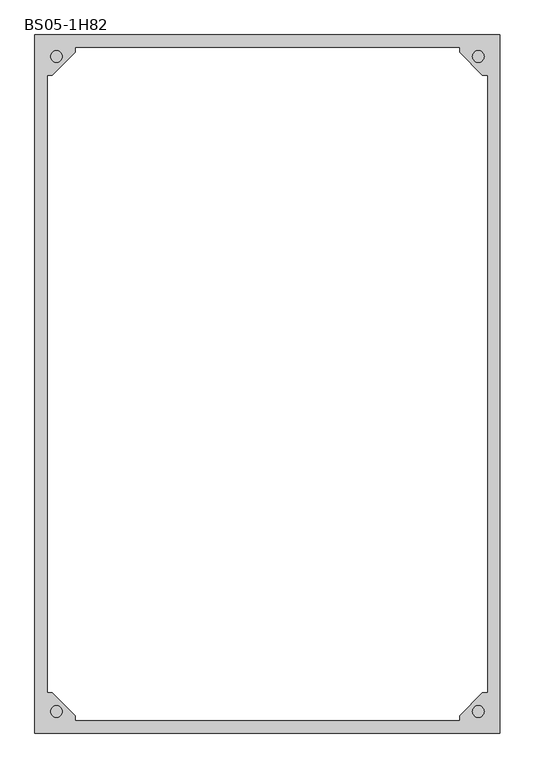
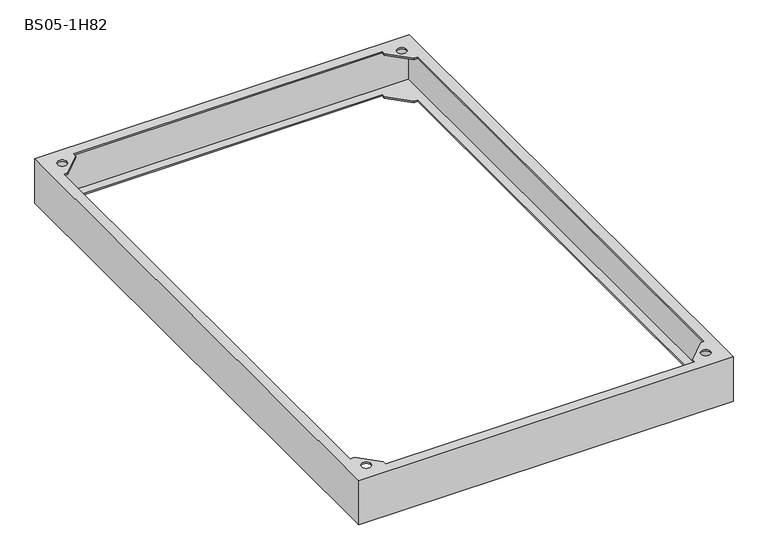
"""IFC4 building model written with IfcOpenShell, lengths in millimetres: proxy geometry, Цоколь для напольных шкафов : BS05-1H82."""

from ifc_helpers import new_model, si_unit, frame, origin, place, context, project, spatial, polyline, circle_curve, source, transform, mapped, element, save
from ifc_brep_helpers import plane_surface, revolved_surface, advanced_brep


def bs05_1h82_7e8a83d8(model_context):
    return source(origin(), model_context, "Body", "AdvancedBrep", [
        advanced_brep(
        [(400.0, -600.0, 100.0), (400.0, -600.0, 97.0), (400.0, -600.0, 3.0), (400.0, -600.0, 0.0), (400.0, 600.0, 0.0), (400.0, 600.0, 3.0), (400.0, 600.0, 97.0), (400.0, 600.0, 100.0), (378.0, 530.0, 0.0), (378.0, -530.0, 0.0), (378.0, -530.0, 3.0), (378.0, 530.0, 3.0), (397.0, 597.0, 97.0), (397.0, 597.0, 3.0), (397.0, -597.0, 3.0), (397.0, -597.0, 97.0), (378.0, 530.0, 97.0), (378.0, -530.0, 97.0), (378.0, -530.0, 100.0), (378.0, 530.0, 100.0), (-400.0, -600.0, 100.0), (-400.0, -600.0, 97.0), (-400.0, -600.0, 3.0), (-400.0, -600.0, 0.0), (330.0, -578.0, 0.0), (-330.0, -578.0, 0.0), (-330.0, -578.0, 3.0), (330.0, -578.0, 3.0), (-397.0, -597.0, 3.0), (-397.0, -597.0, 97.0), (330.0, -578.0, 97.0), (-330.0, -578.0, 97.0), (-330.0, -578.0, 100.0), (330.0, -578.0, 100.0), (-400.0, 600.0, 100.0), (-400.0, 600.0, 97.0), (-400.0, 600.0, 3.0), (-400.0, 600.0, 0.0), (-378.0, -530.0, 0.0), (-378.0, 530.0, 0.0), (-378.0, 530.0, 3.0), (-378.0, -530.0, 3.0), (-397.0, 597.0, 3.0), (-397.0, 597.0, 97.0), (-378.0, -530.0, 97.0), (-378.0, 530.0, 97.0), (-378.0, 530.0, 100.0), (-378.0, -530.0, 100.0), (-330.0, -570.0, 100.0), (-370.0, -530.0, 100.0), (-370.0, 530.0, 100.0), (-330.0, 570.0, 100.0), (-330.0, 578.0, 100.0), (330.0, 578.0, 100.0), (330.0, 570.0, 100.0), (370.0, 530.0, 100.0), (370.0, -530.0, 100.0), (330.0, -570.0, 100.0), (-352.9289322, -562.9289322, 100.0), (-372.9289322, -562.9289322, 100.0), (372.9289322, -562.9289322, 100.0), (352.9289322, -562.9289322, 100.0), (-352.9289322, 562.9289322, 100.0), (-372.9289322, 562.9289322, 100.0), (372.9289322, 562.9289322, 100.0), (352.9289322, 562.9289322, 100.0), (370.0, 530.0, 0.0), (330.0, 570.0, 0.0), (330.0, 578.0, 0.0), (-330.0, 578.0, 0.0), (-330.0, 570.0, 0.0), (-370.0, 530.0, 0.0), (-370.0, -530.0, 0.0), (-330.0, -570.0, 0.0), (330.0, -570.0, 0.0), (370.0, -530.0, 0.0), (330.0, 578.0, 3.0), (-330.0, 578.0, 3.0), (370.0, -530.0, 3.0), (330.0, -570.0, 3.0), (-330.0, -570.0, 3.0), (-370.0, -530.0, 3.0), (-370.0, 530.0, 3.0), (-330.0, 570.0, 3.0), (330.0, 570.0, 3.0), (370.0, 530.0, 3.0), (-370.0, -530.0, 97.0), (-330.0, -570.0, 97.0), (330.0, -570.0, 97.0), (370.0, -530.0, 97.0), (370.0, 530.0, 97.0), (330.0, 570.0, 97.0), (330.0, 578.0, 97.0), (-330.0, 578.0, 97.0), (-330.0, 570.0, 97.0), (-370.0, 530.0, 97.0), (-352.9289322, -562.9289322, 97.0), (-372.9289322, -562.9289322, 97.0), (372.9289322, -562.9289322, 97.0), (352.9289322, -562.9289322, 97.0), (-352.9289322, 562.9289322, 97.0), (-372.9289322, 562.9289322, 97.0), (372.9289322, 562.9289322, 97.0), (352.9289322, 562.9289322, 97.0)],
        [
            (0, 1),
            (1, 2),
            (2, 3),
            (3, 4),
            (4, 5),
            (5, 6),
            (6, 7),
            (7, 0),
            (8, 9),
            (9, 10),
            (10, 11),
            (11, 8),
            (12, 13),
            (13, 14),
            (14, 15),
            (15, 12),
            (16, 17),
            (17, 18),
            (18, 19),
            (19, 16),
            (0, 20),
            (20, 21),
            (21, 22),
            (22, 23),
            (23, 3),
            (24, 25),
            (25, 26),
            (26, 27),
            (27, 24),
            (14, 28),
            (28, 29),
            (29, 15),
            (30, 31),
            (31, 32),
            (32, 33),
            (33, 30),
            (20, 34),
            (34, 35),
            (35, 36),
            (36, 37),
            (37, 23),
            (38, 39),
            (39, 40),
            (40, 41),
            (41, 38),
            (28, 42),
            (42, 43),
            (43, 29),
            (44, 45),
            (45, 46),
            (46, 47),
            (47, 44),
            (7, 34),
            (48, 49),
            (49, 47),
            (46, 50),
            (50, 51),
            (51, 52),
            (52, 53),
            (53, 54),
            (54, 55),
            (55, 19),
            (18, 56),
            (56, 57),
            (57, 33),
            (32, 48),
            (58, 59, circle_curve(frame((-362.9289322, -562.9289322, 100.0), z_axis=(0.0, 0.0, -1.0), x_axis=(-1.0, 0.0, 0.0)), 10.0)),
            (59, 58, circle_curve(frame((-362.9289322, -562.9289322, 100.0), z_axis=(0.0, 0.0, -1.0), x_axis=(-1.0, 0.0, 0.0)), 10.0)),
            (60, 61, circle_curve(frame((362.9289322, -562.9289322, 100.0), z_axis=(0.0, 0.0, -1.0), x_axis=(-1.0, 0.0, 0.0)), 10.0)),
            (61, 60, circle_curve(frame((362.9289322, -562.9289322, 100.0), z_axis=(0.0, 0.0, -1.0), x_axis=(-1.0, 0.0, 0.0)), 10.0)),
            (62, 63, circle_curve(frame((-362.9289322, 562.9289322, 100.0), z_axis=(0.0, 0.0, -1.0), x_axis=(-1.0, 0.0, 0.0)), 10.0)),
            (63, 62, circle_curve(frame((-362.9289322, 562.9289322, 100.0), z_axis=(0.0, 0.0, -1.0), x_axis=(-1.0, 0.0, 0.0)), 10.0)),
            (64, 65, circle_curve(frame((362.9289322, 562.9289322, 100.0), z_axis=(0.0, 0.0, -1.0), x_axis=(-1.0, 0.0, 0.0)), 10.0)),
            (65, 64, circle_curve(frame((362.9289322, 562.9289322, 100.0), z_axis=(0.0, 0.0, -1.0), x_axis=(-1.0, 0.0, 0.0)), 10.0)),
            (4, 37),
            (8, 66),
            (66, 67),
            (67, 68),
            (68, 69),
            (69, 70),
            (70, 71),
            (71, 39),
            (38, 72),
            (72, 73),
            (73, 25),
            (24, 74),
            (74, 75),
            (75, 9),
            (68, 76),
            (76, 77),
            (77, 69),
            (13, 42),
            (10, 78),
            (78, 79),
            (79, 27),
            (26, 80),
            (80, 81),
            (81, 41),
            (40, 82),
            (82, 83),
            (83, 77),
            (76, 84),
            (84, 85),
            (85, 11),
            (12, 43),
            (86, 87),
            (87, 31),
            (30, 88),
            (88, 89),
            (89, 17),
            (16, 90),
            (90, 91),
            (91, 92),
            (92, 93),
            (93, 94),
            (94, 95),
            (95, 45),
            (44, 86),
            (96, 97, circle_curve(frame((-362.9289322, -562.9289322, 97.0), z_axis=(0.0, 0.0, 1.0), x_axis=(-1.0, 0.0, 0.0)), 10.0)),
            (97, 96, circle_curve(frame((-362.9289322, -562.9289322, 97.0), z_axis=(0.0, 0.0, 1.0), x_axis=(-1.0, 0.0, 0.0)), 10.0)),
            (98, 99, circle_curve(frame((362.9289322, -562.9289322, 97.0), z_axis=(0.0, 0.0, 1.0), x_axis=(-1.0, 0.0, 0.0)), 10.0)),
            (99, 98, circle_curve(frame((362.9289322, -562.9289322, 97.0), z_axis=(0.0, 0.0, 1.0), x_axis=(-1.0, 0.0, 0.0)), 10.0)),
            (100, 101, circle_curve(frame((-362.9289322, 562.9289322, 97.0), z_axis=(0.0, 0.0, 1.0), x_axis=(-1.0, 0.0, 0.0)), 10.0)),
            (101, 100, circle_curve(frame((-362.9289322, 562.9289322, 97.0), z_axis=(0.0, 0.0, 1.0), x_axis=(-1.0, 0.0, 0.0)), 10.0)),
            (102, 103, circle_curve(frame((362.9289322, 562.9289322, 97.0), z_axis=(0.0, 0.0, 1.0), x_axis=(-1.0, 0.0, 0.0)), 10.0)),
            (103, 102, circle_curve(frame((362.9289322, 562.9289322, 97.0), z_axis=(0.0, 0.0, 1.0), x_axis=(-1.0, 0.0, 0.0)), 10.0)),
            (52, 93),
            (92, 53),
            (87, 48),
            (86, 49),
            (89, 56),
            (88, 57),
            (95, 50),
            (94, 51),
            (91, 54),
            (90, 55),
            (58, 96),
            (97, 59),
            (60, 98),
            (99, 61),
            (62, 100),
            (101, 63),
            (64, 102),
            (103, 65),
            (73, 80),
            (72, 81),
            (75, 78),
            (74, 79),
            (71, 82),
            (70, 83),
            (67, 84),
            (66, 85),
        ],
        [
            plane_surface(frame((400.0, 600.0, 100.0), z_axis=(1.0, 0.0, 0.0), x_axis=(0.0, -1.0, 0.0))),
            plane_surface(frame((378.0, 578.0, 0.0), z_axis=(-1.0, 0.0, 0.0), x_axis=(0.0, -1.0, 0.0))),
            plane_surface(frame((397.0, 597.0, 3.0), z_axis=(-1.0, 0.0, 0.0), x_axis=(0.0, -1.0, 0.0))),
            plane_surface(frame((378.0, 578.0, 97.0), z_axis=(-1.0, 0.0, 0.0), x_axis=(0.0, -1.0, 0.0))),
            plane_surface(frame((400.0, -600.0, 100.0), z_axis=(0.0, -1.0, 0.0), x_axis=(-1.0, 0.0, 0.0))),
            plane_surface(frame((378.0, -578.0, 0.0), z_axis=(0.0, 1.0, 0.0), x_axis=(-1.0, 0.0, 0.0))),
            plane_surface(frame((397.0, -597.0, 3.0), z_axis=(0.0, 1.0, 0.0), x_axis=(-1.0, 0.0, 0.0))),
            plane_surface(frame((378.0, -578.0, 97.0), z_axis=(0.0, 1.0, 0.0), x_axis=(-1.0, 0.0, 0.0))),
            plane_surface(frame((-400.0, -600.0, 100.0), z_axis=(-1.0, 0.0, 0.0), x_axis=(0.0, 1.0, 0.0))),
            plane_surface(frame((-378.0, -578.0, 0.0), z_axis=(1.0, 0.0, 0.0), x_axis=(0.0, 1.0, 0.0))),
            plane_surface(frame((-397.0, -597.0, 3.0), z_axis=(1.0, 0.0, 0.0), x_axis=(0.0, 1.0, 0.0))),
            plane_surface(frame((-378.0, -578.0, 97.0), z_axis=(1.0, 0.0, 0.0), x_axis=(0.0, 1.0, 0.0))),
            plane_surface(frame((-378.0, 578.0, 100.0), z_axis=(0.0, 0.0, 1.0), x_axis=(1.0, 0.0, 0.0))),
            plane_surface(frame((-400.0, 600.0, 100.0), z_axis=(0.0, 1.0, 0.0), x_axis=(1.0, 0.0, 0.0))),
            plane_surface(frame((-400.0, 600.0, 0.0), z_axis=(0.0, 0.0, -1.0), x_axis=(1.0, 0.0, 0.0))),
            plane_surface(frame((-378.0, 578.0, 0.0), z_axis=(0.0, -1.0, 0.0), x_axis=(1.0, 0.0, 0.0))),
            plane_surface(frame((-378.0, 578.0, 3.0), z_axis=(0.0, 0.0, 1.0), x_axis=(1.0, 0.0, 0.0))),
            plane_surface(frame((-397.0, 597.0, 3.0), z_axis=(0.0, -1.0, 0.0), x_axis=(1.0, 0.0, 0.0))),
            plane_surface(frame((-397.0, 597.0, 97.0), z_axis=(0.0, 0.0, -1.0), x_axis=(1.0, 0.0, 0.0))),
            plane_surface(frame((-378.0, 578.0, 97.0), z_axis=(0.0, -1.0, 0.0), x_axis=(1.0, 0.0, 0.0))),
            plane_surface(frame((-330.0, -600.0, 100.0), z_axis=(1.0, 0.0, 0.0), x_axis=(0.0, 0.0, -1.0))),
            plane_surface(frame((-330.0, -570.0, 100.0), z_axis=(0.7071067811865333, 0.7071067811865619, 0.0), x_axis=(0.0, 0.0, -1.0))),
            plane_surface(frame((-370.0, -530.0, 100.0), z_axis=(0.0, 1.0, 0.0), x_axis=(0.0, 0.0, -1.0))),
            plane_surface(frame((400.0, -530.0, 100.0), z_axis=(0.0, 1.0, 0.0), x_axis=(0.0, 0.0, -1.0))),
            plane_surface(frame((370.0, -530.0, 100.0), z_axis=(-0.7071067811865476, 0.7071067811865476, 0.0), x_axis=(0.0, 0.0, -1.0))),
            plane_surface(frame((330.0, -570.0, 100.0), z_axis=(-1.0, 0.0, 0.0), x_axis=(0.0, 0.0, -1.0))),
            plane_surface(frame((-400.0, 530.0, 100.0), z_axis=(0.0, -1.0, 0.0), x_axis=(0.0, 0.0, -1.0))),
            plane_surface(frame((-370.0, 530.0, 100.0), z_axis=(0.7071067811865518, -0.7071067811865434, 0.0), x_axis=(0.0, 0.0, -1.0))),
            plane_surface(frame((-330.0, 570.0, 100.0), z_axis=(1.0, 0.0, 0.0), x_axis=(0.0, 0.0, -1.0))),
            plane_surface(frame((330.0, 600.0, 100.0), z_axis=(-1.0, 0.0, 0.0), x_axis=(0.0, 0.0, -1.0))),
            plane_surface(frame((330.0, 570.0, 100.0), z_axis=(-0.7071067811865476, -0.7071067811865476, 0.0), x_axis=(0.0, 0.0, -1.0))),
            plane_surface(frame((370.0, 530.0, 100.0), z_axis=(0.0, -1.0, 0.0), x_axis=(0.0, 0.0, -1.0))),
            revolved_surface(polyline([(-372.9289322, -562.9289322, 97.0), (-372.9289322, -562.9289322, 100.0)]), (-362.9289322, -562.9289322, 100.0), (0.0, 0.0, -1.0)),
            revolved_surface(polyline([(352.9289322, -562.9289322, 97.0), (352.9289322, -562.9289322, 100.0)]), (362.9289322, -562.9289322, 100.0), (0.0, 0.0, -1.0)),
            revolved_surface(polyline([(-372.9289322, 562.9289322, 97.0), (-372.9289322, 562.9289322, 100.0)]), (-362.9289322, 562.9289322, 100.0), (0.0, 0.0, -1.0)),
            revolved_surface(polyline([(352.9289322, 562.9289322, 97.0), (352.9289322, 562.9289322, 100.0)]), (362.9289322, 562.9289322, 100.0), (0.0, 0.0, -1.0)),
            plane_surface(frame((-330.0, -600.0, 3.0), z_axis=(1.0, 0.0, 0.0), x_axis=(0.0, 0.0, -1.0))),
            plane_surface(frame((-330.0, -570.0, 3.0), z_axis=(0.7071067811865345, 0.7071067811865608, 0.0), x_axis=(0.0, 0.0, -1.0))),
            plane_surface(frame((-370.0, -530.0, 3.0), z_axis=(0.0, 1.0, 0.0), x_axis=(0.0, 0.0, -1.0))),
            plane_surface(frame((400.0, -530.0, 3.0), z_axis=(0.0, 1.0, 0.0), x_axis=(0.0, 0.0, -1.0))),
            plane_surface(frame((370.0, -530.0, 3.0), z_axis=(-0.7071067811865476, 0.7071067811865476, 0.0), x_axis=(0.0, 0.0, -1.0))),
            plane_surface(frame((330.0, -570.0, 3.0), z_axis=(-1.0, 0.0, 0.0), x_axis=(0.0, 0.0, -1.0))),
            plane_surface(frame((-400.0, 530.0, 3.0), z_axis=(0.0, -1.0, 0.0), x_axis=(0.0, 0.0, -1.0))),
            plane_surface(frame((-370.0, 530.0, 3.0), z_axis=(0.7071067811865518, -0.7071067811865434, 0.0), x_axis=(0.0, 0.0, -1.0))),
            plane_surface(frame((-330.0, 570.0, 3.0), z_axis=(1.0, 0.0, 0.0), x_axis=(0.0, 0.0, -1.0))),
            plane_surface(frame((330.0, 600.0, 3.0), z_axis=(-1.0, 0.0, 0.0), x_axis=(0.0, 0.0, -1.0))),
            plane_surface(frame((330.0, 570.0, 3.0), z_axis=(-0.7071067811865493, -0.7071067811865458, 0.0), x_axis=(0.0, 0.0, -1.0))),
            plane_surface(frame((370.0, 530.0, 3.0), z_axis=(0.0, -1.0, 0.0), x_axis=(0.0, 0.0, -1.0))),
        ],
        [
            (0, [[1, 2, 3, 4, 5, 6, 7, 8]]),
            (1, [[9, 10, 11, 12]]),
            (2, [[13, 14, 15, 16]]),
            (3, [[17, 18, 19, 20]]),
            (4, [[-1, 21, 22, 23, 24, 25, -3, -2]]),
            (5, [[26, 27, 28, 29]]),
            (6, [[-15, 30, 31, 32]]),
            (7, [[33, 34, 35, 36]]),
            (8, [[-22, 37, 38, 39, 40, 41, -24, -23]]),
            (9, [[42, 43, 44, 45]]),
            (10, [[-31, 46, 47, 48]]),
            (11, [[49, 50, 51, 52]]),
            (12, [[-8, 53, -37, -21], [54, 55, -51, 56, 57, 58, 59, 60, 61, 62, -19, 63, 64, 65, -35, 66], [67, 68], [69, 70], [71, 72], [73, 74]]),
            (13, [[-38, -53, -7, -6, -5, 75, -40, -39]]),
            (14, [[-4, -25, -41, -75], [-9, 76, 77, 78, 79, 80, 81, 82, -42, 83, 84, 85, -26, 86, 87, 88]]),
            (15, [[-79, 89, 90, 91]]),
            (16, [[-14, 92, -46, -30], [-11, 93, 94, 95, -28, 96, 97, 98, -44, 99, 100, 101, -90, 102, 103, 104]]),
            (17, [[-92, -13, 105, -47]]),
            (18, [[-32, -48, -105, -16], [106, 107, -33, 108, 109, 110, -17, 111, 112, 113, 114, 115, 116, 117, -49, 118], [119, 120], [121, 122], [123, 124], [125, 126]]),
            (19, [[-59, 127, -114, 128]]),
            (20, [[129, -66, -34, -107]]),
            (21, [[-54, -129, -106, 130]]),
            (22, [[-130, -118, -52, -55]]),
            (23, [[131, -63, -18, -110]]),
            (24, [[-64, -131, -109, 132]]),
            (25, [[-132, -108, -36, -65]]),
            (26, [[133, -56, -50, -117]]),
            (27, [[-57, -133, -116, 134]]),
            (28, [[-134, -115, -127, -58]]),
            (29, [[135, -60, -128, -113]]),
            (30, [[-61, -135, -112, 136]]),
            (31, [[-136, -111, -20, -62]]),
            (32, [[-67, 137, -120, 138]]),
            (32, [[-68, -138, -119, -137]]),
            (33, [[-69, 139, -122, 140]]),
            (33, [[-70, -140, -121, -139]]),
            (34, [[-71, 141, -124, 142]]),
            (34, [[-72, -142, -123, -141]]),
            (35, [[-73, 143, -126, 144]]),
            (35, [[-74, -144, -125, -143]]),
            (36, [[145, -96, -27, -85]]),
            (37, [[-97, -145, -84, 146]]),
            (38, [[-146, -83, -45, -98]]),
            (39, [[147, -93, -10, -88]]),
            (40, [[-94, -147, -87, 148]]),
            (41, [[-148, -86, -29, -95]]),
            (42, [[149, -99, -43, -82]]),
            (43, [[-100, -149, -81, 150]]),
            (44, [[-150, -80, -91, -101]]),
            (45, [[151, -102, -89, -78]]),
            (46, [[-103, -151, -77, 152]]),
            (47, [[-152, -76, -12, -104]]),
        ],
    ),
    ])


if __name__ == "__main__":
    model = new_model("IFC4")
    model_context = context("Model", 3, world=origin())
    ifc_project = project(units=[si_unit("LENGTHUNIT", "METRE", prefix="MILLI")], contexts=[model_context])
    site = spatial("IfcSite", under=ifc_project)
    building = spatial("IfcBuilding", under=site)
    placement = place(None, origin())
    bs05_1h82_shape = bs05_1h82_7e8a83d8(model_context)
    element("IfcBuildingElementProxy", 1, Name="Цоколь для напольных шкафов : BS05-1H82", ObjectType="Цоколь для напольных шкафов : BS05-1H82", at=placement, inside=building, context=model_context, shape_type="MappedRepresentation", body=[
        mapped(bs05_1h82_shape, transform((0.0, 0.0, 0.0), x_axis=(1.0, 0.0, 0.0), y_axis=(0.0, 1.0, 0.0), z_axis=(0.0, 0.0, 1.0))),
    ])
    save(model, "model.ifc")
